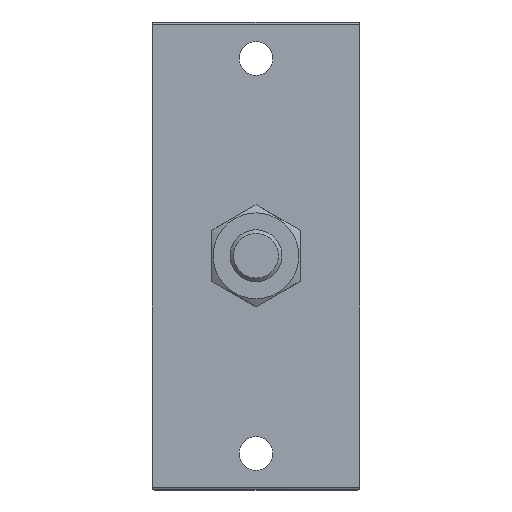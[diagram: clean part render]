
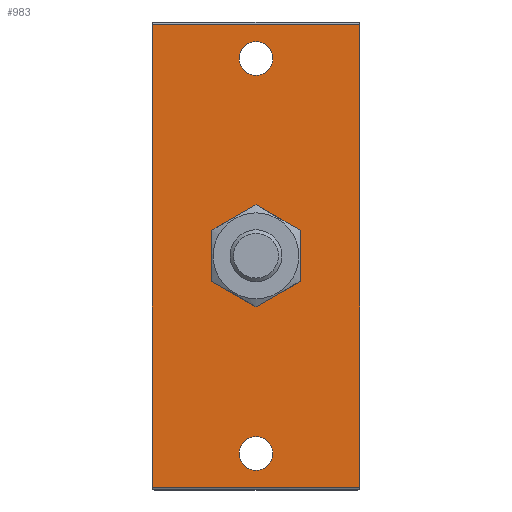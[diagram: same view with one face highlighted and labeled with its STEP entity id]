
A CAD part, top view. The second image highlights one B-rep face of the part: STEP entity #983.
In plain terms, the highlighted planar face has unit normal (0, 0, 1).
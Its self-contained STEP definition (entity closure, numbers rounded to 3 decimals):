
#688=CARTESIAN_POINT('',(28.017,-44.5,16.0));
#689=VERTEX_POINT('',#688);
#690=CARTESIAN_POINT('',(-11.983,-44.5,16.0));
#691=VERTEX_POINT('',#690);
#692=CARTESIAN_POINT('',(28.017,-44.5,16.0));
#693=DIRECTION('',(-1.0,0.0,0.0));
#694=VECTOR('',#693,40.);
#695=LINE('',#692,#694);
#696=EDGE_CURVE('',#689,#691,#695,.T.);
#828=CARTESIAN_POINT('',(-11.983,44.5,16.0));
#829=VERTEX_POINT('',#828);
#830=CARTESIAN_POINT('',(-11.983,-44.5,16.0));
#831=DIRECTION('',(0.0,1.0,0.0));
#832=VECTOR('',#831,89.0);
#833=LINE('',#830,#832);
#834=EDGE_CURVE('',#691,#829,#833,.T.);
#868=CARTESIAN_POINT('',(8.017,0.,16.0));
#869=DIRECTION('',(0.0,0.0,1.0));
#870=DIRECTION('',(1.0,0.0,0.0));
#871=AXIS2_PLACEMENT_3D('',#868,#869,#870);
#872=PLANE('',#871);
#873=ORIENTED_EDGE('',*,*,#696,.F.);
#874=CARTESIAN_POINT('',(28.017,44.5,16.0));
#875=VERTEX_POINT('',#874);
#876=CARTESIAN_POINT('',(28.017,44.5,16.0));
#877=DIRECTION('',(0.0,-1.0,0.0));
#878=VECTOR('',#877,89.0);
#879=LINE('',#876,#878);
#880=EDGE_CURVE('',#875,#689,#879,.T.);
#881=ORIENTED_EDGE('',*,*,#880,.F.);
#882=CARTESIAN_POINT('',(-11.983,44.5,16.0));
#883=DIRECTION('',(1.0,0.0,0.0));
#884=VECTOR('',#883,40.0);
#885=LINE('',#882,#884);
#886=EDGE_CURVE('',#829,#875,#885,.T.);
#887=ORIENTED_EDGE('',*,*,#886,.F.);
#888=ORIENTED_EDGE('',*,*,#834,.F.);
#889=EDGE_LOOP('',(#873,#881,#887,#888));
#890=FACE_OUTER_BOUND('',#889,.T.);
#891=CARTESIAN_POINT('',(10.415,5.5,16.0));
#892=VERTEX_POINT('',#891);
#893=CARTESIAN_POINT('',(13.517,2.398,16.0));
#894=VERTEX_POINT('',#893);
#895=CARTESIAN_POINT('',(8.017,0.0,16.0));
#896=DIRECTION('',(0.0,0.0,-1.0));
#897=DIRECTION('',(0.0,1.0,0.0));
#898=AXIS2_PLACEMENT_3D('',#895,#896,#897);
#899=CIRCLE('',#898,6.);
#900=EDGE_CURVE('',#892,#894,#899,.T.);
#901=ORIENTED_EDGE('',*,*,#900,.T.);
#902=CARTESIAN_POINT('',(13.517,-2.398,16.0));
#903=VERTEX_POINT('',#902);
#904=CARTESIAN_POINT('',(13.517,-2.398,16.0));
#905=DIRECTION('',(0.0,1.0,0.0));
#906=VECTOR('',#905,4.796);
#907=LINE('',#904,#906);
#908=EDGE_CURVE('',#903,#894,#907,.T.);
#909=ORIENTED_EDGE('',*,*,#908,.F.);
#910=CARTESIAN_POINT('',(10.415,-5.5,16.0));
#911=VERTEX_POINT('',#910);
#912=CARTESIAN_POINT('',(8.017,0.0,16.0));
#913=DIRECTION('',(0.0,0.0,-1.0));
#914=DIRECTION('',(0.0,1.0,0.0));
#915=AXIS2_PLACEMENT_3D('',#912,#913,#914);
#916=CIRCLE('',#915,6.);
#917=EDGE_CURVE('',#903,#911,#916,.T.);
#918=ORIENTED_EDGE('',*,*,#917,.T.);
#919=CARTESIAN_POINT('',(5.619,-5.5,16.0));
#920=VERTEX_POINT('',#919);
#921=CARTESIAN_POINT('',(5.619,-5.5,16.0));
#922=DIRECTION('',(1.0,0.0,0.0));
#923=VECTOR('',#922,4.796);
#924=LINE('',#921,#923);
#925=EDGE_CURVE('',#920,#911,#924,.T.);
#926=ORIENTED_EDGE('',*,*,#925,.F.);
#927=CARTESIAN_POINT('',(2.517,-2.398,16.0));
#928=VERTEX_POINT('',#927);
#929=CARTESIAN_POINT('',(8.017,0.0,16.0));
#930=DIRECTION('',(0.0,0.0,-1.0));
#931=DIRECTION('',(0.0,1.0,0.0));
#932=AXIS2_PLACEMENT_3D('',#929,#930,#931);
#933=CIRCLE('',#932,6.);
#934=EDGE_CURVE('',#920,#928,#933,.T.);
#935=ORIENTED_EDGE('',*,*,#934,.T.);
#936=CARTESIAN_POINT('',(2.517,2.398,16.0));
#937=VERTEX_POINT('',#936);
#938=CARTESIAN_POINT('',(2.517,2.398,16.0));
#939=DIRECTION('',(0.0,-1.0,0.0));
#940=VECTOR('',#939,4.796);
#941=LINE('',#938,#940);
#942=EDGE_CURVE('',#937,#928,#941,.T.);
#943=ORIENTED_EDGE('',*,*,#942,.F.);
#944=CARTESIAN_POINT('',(5.619,5.5,16.0));
#945=VERTEX_POINT('',#944);
#946=CARTESIAN_POINT('',(8.017,0.0,16.0));
#947=DIRECTION('',(0.0,0.0,-1.0));
#948=DIRECTION('',(0.0,1.0,0.0));
#949=AXIS2_PLACEMENT_3D('',#946,#947,#948);
#950=CIRCLE('',#949,6.);
#951=EDGE_CURVE('',#937,#945,#950,.T.);
#952=ORIENTED_EDGE('',*,*,#951,.T.);
#953=CARTESIAN_POINT('',(10.415,5.5,16.0));
#954=DIRECTION('',(-1.0,0.0,0.0));
#955=VECTOR('',#954,4.796);
#956=LINE('',#953,#955);
#957=EDGE_CURVE('',#892,#945,#956,.T.);
#958=ORIENTED_EDGE('',*,*,#957,.F.);
#959=EDGE_LOOP('',(#901,#909,#918,#926,#935,#943,#952,#958));
#960=FACE_BOUND('',#959,.T.);
#961=CARTESIAN_POINT('',(11.267,38.0,16.0));
#962=VERTEX_POINT('',#961);
#963=CARTESIAN_POINT('',(8.017,38.0,16.0));
#964=DIRECTION('',(0.0,0.0,1.0));
#965=DIRECTION('',(-1.0,0.0,0.0));
#966=AXIS2_PLACEMENT_3D('',#963,#964,#965);
#967=CIRCLE('',#966,3.25);
#968=EDGE_CURVE('',#962,#962,#967,.T.);
#969=ORIENTED_EDGE('',*,*,#968,.F.);
#970=EDGE_LOOP('',(#969));
#971=FACE_BOUND('',#970,.T.);
#972=CARTESIAN_POINT('',(11.267,-38.0,16.0));
#973=VERTEX_POINT('',#972);
#974=CARTESIAN_POINT('',(8.017,-38.0,16.0));
#975=DIRECTION('',(0.0,0.0,1.0));
#976=DIRECTION('',(-1.0,0.0,0.0));
#977=AXIS2_PLACEMENT_3D('',#974,#975,#976);
#978=CIRCLE('',#977,3.25);
#979=EDGE_CURVE('',#973,#973,#978,.T.);
#980=ORIENTED_EDGE('',*,*,#979,.F.);
#981=EDGE_LOOP('',(#980));
#982=FACE_BOUND('',#981,.T.);
#983=ADVANCED_FACE('',(#890,#960,#971,#982),#872,.T.);
